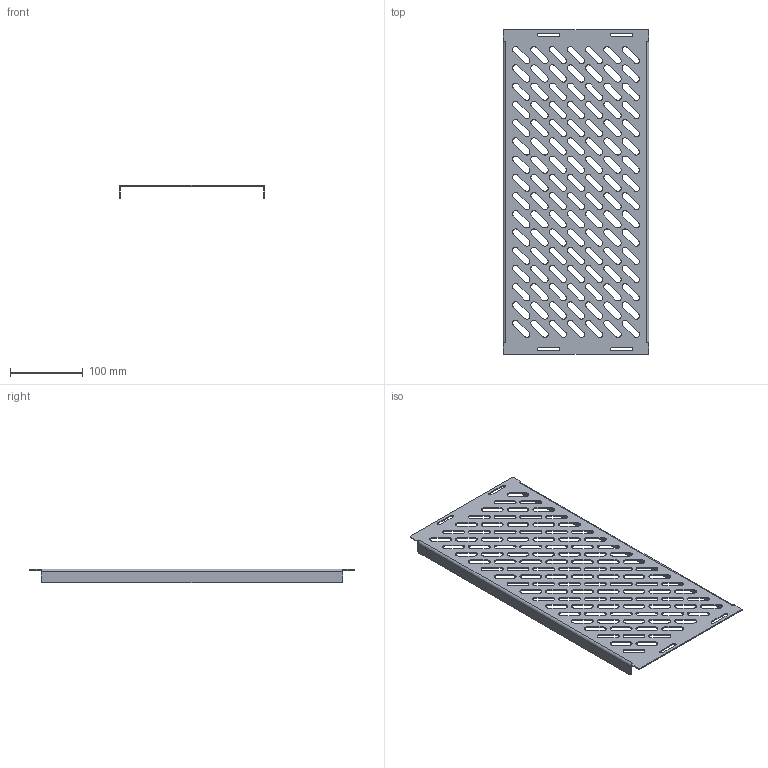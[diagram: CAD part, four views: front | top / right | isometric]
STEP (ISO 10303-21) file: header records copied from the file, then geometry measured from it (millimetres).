
FILE_DESCRIPTION(('STEP AP203'), '1');
FILE_NAME('3007 Ïàíåëü íà äíî ïîäâèæíàÿ', '', ('UNSPECIFIED'), ('UNSPECIFIED'), 'C3D Converter', 'C3D Toolkit', '');
FILE_SCHEMA(('CONFIG_CONTROL_DESIGN'));
Length unit declared in the file: millimetre
Products named in the file (1): 3007.60.200.П
Bounding box: 200 x 445 x 19 mm (x, y, z)
Volume: 112599.2 mm3; surface area: 164300.1 mm2
Topology: 1 solids, 1 shells, 510 faces, 1508 edges, 1000 vertices
Faces by surface type: plane 258, cylinder 252
Entity records: 17652 total; most frequent: DIRECTION 3034, CARTESIAN_POINT 3019, ORIENTED_EDGE 3016, EDGE_CURVE 1508, AXIS2_PLACEMENT_3D 1015, LINE 1004, VECTOR 1004, VERTEX_POINT 1000
